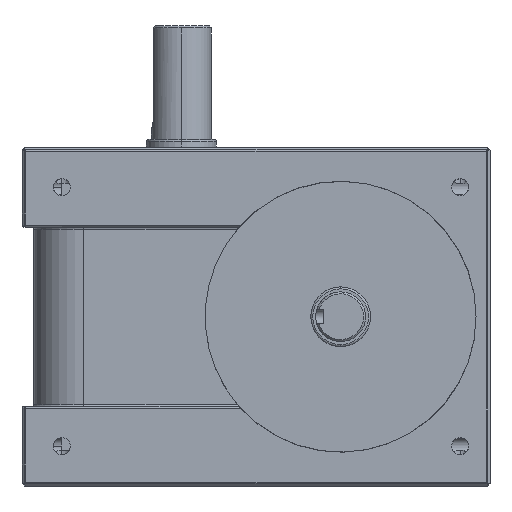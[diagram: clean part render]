
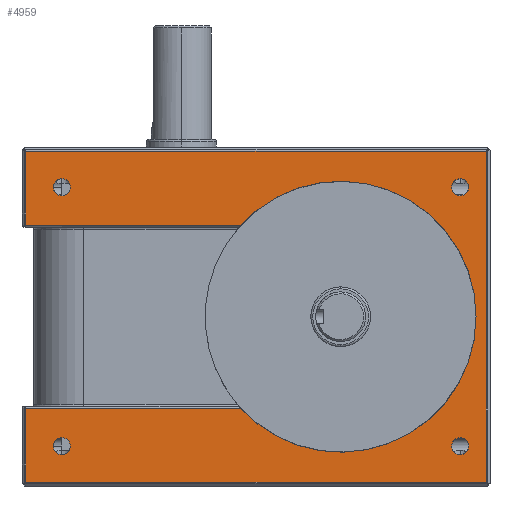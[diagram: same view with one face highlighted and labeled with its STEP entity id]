
A CAD part, left-side view. The second image highlights one B-rep face of the part: STEP entity #4959.
In plain terms, the highlighted planar face has unit normal (-1, 0, 0).
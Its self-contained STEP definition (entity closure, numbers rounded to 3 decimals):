
#852=CARTESIAN_POINT('',(-80.,-102.5,-20.));
#853=DIRECTION('',(-1.,0.,0.));
#854=DIRECTION('',(0.,0.,1.));
#855=AXIS2_PLACEMENT_3D('',#852,#853,#854);
#857=CARTESIAN_POINT('',(-80.,-102.5,-20.));
#858=DIRECTION('',(-1.,0.,0.));
#859=DIRECTION('',(0.,0.,-1.));
#860=AXIS2_PLACEMENT_3D('',#857,#858,#859);
#862=CARTESIAN_POINT('',(-80.,97.5,-20.));
#863=DIRECTION('',(-1.,0.,0.));
#864=DIRECTION('',(0.,0.,1.));
#865=AXIS2_PLACEMENT_3D('',#862,#863,#864);
#867=CARTESIAN_POINT('',(-80.,97.5,-20.));
#868=DIRECTION('',(-1.,0.,0.));
#869=DIRECTION('',(0.,0.,-1.));
#870=AXIS2_PLACEMENT_3D('',#867,#868,#869);
#872=CARTESIAN_POINT('',(-80.,97.5,-150.));
#873=DIRECTION('',(-1.,0.,0.));
#874=DIRECTION('',(0.,0.,1.));
#875=AXIS2_PLACEMENT_3D('',#872,#873,#874);
#877=CARTESIAN_POINT('',(-80.,97.5,-150.));
#878=DIRECTION('',(-1.,0.,0.));
#879=DIRECTION('',(0.,0.,-1.));
#880=AXIS2_PLACEMENT_3D('',#877,#878,#879);
#882=CARTESIAN_POINT('',(-80.,-102.5,-150.));
#883=DIRECTION('',(-1.,0.,0.));
#884=DIRECTION('',(0.,0.,1.));
#885=AXIS2_PLACEMENT_3D('',#882,#883,#884);
#887=CARTESIAN_POINT('',(-80.,-102.5,-150.));
#888=DIRECTION('',(-1.,0.,0.));
#889=DIRECTION('',(0.,0.,-1.));
#890=AXIS2_PLACEMENT_3D('',#887,#888,#889);
#892=DIRECTION('',(0.,0.,1.));
#893=VECTOR('',#892,37.086);
#894=CARTESIAN_POINT('',(-80.,115.586,-39.));
#895=LINE('',#894,#893);
#896=DIRECTION('',(0.,-1.,0.));
#897=VECTOR('',#896,231.172);
#898=CARTESIAN_POINT('',(-80.,115.586,-1.914));
#899=LINE('',#898,#897);
#900=DIRECTION('',(0.,0.,-1.));
#901=VECTOR('',#900,166.172);
#902=CARTESIAN_POINT('',(-80.,-115.586,
-1.914));
#903=LINE('',#902,#901);
#904=DIRECTION('',(0.,1.,0.));
#905=VECTOR('',#904,231.172);
#906=CARTESIAN_POINT('',(-80.,-115.586,
-168.086));
#907=LINE('',#906,#905);
#908=DIRECTION('',(0.,0.,1.));
#909=VECTOR('',#908,37.086);
#910=CARTESIAN_POINT('',(-80.,115.586,-168.086));
#911=LINE('',#910,#909);
#912=DIRECTION('',(0.,1.,0.));
#913=VECTOR('',#912,108.006);
#914=CARTESIAN_POINT('',(-80.,7.58,-131.));
#915=LINE('',#914,#913);
#916=DIRECTION('',(0.,-1.,0.));
#917=VECTOR('',#916,108.006);
#918=CARTESIAN_POINT('',(-80.,115.586,-39.));
#919=LINE('',#918,#917);
#2567=CARTESIAN_POINT('',(-80.,115.586,-39.));
#2569=CARTESIAN_POINT('',(-80.,7.58,-39.));
#2578=CARTESIAN_POINT('',(-80.,-42.5,-85.));
#2579=DIRECTION('',(1.,0.,0.));
#2580=DIRECTION('',(0.,0.736,0.676));
#2581=AXIS2_PLACEMENT_3D('',#2578,#2579,#2580);
#2590=CARTESIAN_POINT('',(-80.,7.58,-131.));
#3512=CARTESIAN_POINT('',(-80.,-102.5,-15.75));
#3513=CARTESIAN_POINT('',(-80.,-102.5,-24.25));
#3514=VERTEX_POINT('',#3512);
#3515=VERTEX_POINT('',#3513);
#3516=CARTESIAN_POINT('',(-80.,97.5,-15.75));
#3517=CARTESIAN_POINT('',(-80.,97.5,-24.25));
#3518=VERTEX_POINT('',#3516);
#3519=VERTEX_POINT('',#3517);
#3520=CARTESIAN_POINT('',(-80.,97.5,-145.75));
#3521=CARTESIAN_POINT('',(-80.,97.5,-154.25));
#3522=VERTEX_POINT('',#3520);
#3523=VERTEX_POINT('',#3521);
#3524=CARTESIAN_POINT('',(-80.,-102.5,-145.75));
#3525=CARTESIAN_POINT('',(-80.,-102.5,-154.25));
#3526=VERTEX_POINT('',#3524);
#3527=VERTEX_POINT('',#3525);
#3809=VERTEX_POINT('',#2569);
#3811=VERTEX_POINT('',#2590);
#4014=VERTEX_POINT('',#2567);
#4017=CARTESIAN_POINT('',(-80.,115.586,
-1.914));
#4018=VERTEX_POINT('',#4017);
#4022=CARTESIAN_POINT('',(-80.,-115.586,
-1.914));
#4023=VERTEX_POINT('',#4022);
#4027=CARTESIAN_POINT('',(-80.,-115.586,
-168.086));
#4028=VERTEX_POINT('',#4027);
#4032=CARTESIAN_POINT('',(-80.,115.586,
-168.086));
#4033=VERTEX_POINT('',#4032);
#4037=CARTESIAN_POINT('',(-80.,115.586,-131.));
#4038=VERTEX_POINT('',#4037);
#4914=CARTESIAN_POINT('',(-80.,117.5,0.));
#4915=DIRECTION('',(-1.,0.,0.));
#4916=DIRECTION('',(0.,-1.,0.));
#4917=AXIS2_PLACEMENT_3D('',#4914,#4915,#4916);
#4918=PLANE('',#4917);
#4920=ORIENTED_EDGE('',*,*,#4919,.T.);
#4922=ORIENTED_EDGE('',*,*,#4921,.T.);
#4924=ORIENTED_EDGE('',*,*,#4923,.T.);
#4926=ORIENTED_EDGE('',*,*,#4925,.T.);
#4928=ORIENTED_EDGE('',*,*,#4927,.T.);
#4930=ORIENTED_EDGE('',*,*,#4929,.F.);
#4932=ORIENTED_EDGE('',*,*,#4931,.F.);
#4934=ORIENTED_EDGE('',*,*,#4933,.F.);
#4935=EDGE_LOOP('',(#4920,#4922,#4924,#4926,#4928,#4930,#4932,#4934));
#4936=FACE_OUTER_BOUND('',#4935,.F.);
#4937=ORIENTED_EDGE('',*,*,#4400,.T.);
#4939=ORIENTED_EDGE('',*,*,#4938,.T.);
#4940=EDGE_LOOP('',(#4937,#4939));
#4941=FACE_BOUND('',#4940,.F.);
#4943=ORIENTED_EDGE('',*,*,#4942,.T.);
#4944=ORIENTED_EDGE('',*,*,#4903,.T.);
#4945=EDGE_LOOP('',(#4943,#4944));
#4946=FACE_BOUND('',#4945,.F.);
#4948=ORIENTED_EDGE('',*,*,#4947,.T.);
#4950=ORIENTED_EDGE('',*,*,#4949,.T.);
#4951=EDGE_LOOP('',(#4948,#4950));
#4952=FACE_BOUND('',#4951,.F.);
#4954=ORIENTED_EDGE('',*,*,#4953,.T.);
#4956=ORIENTED_EDGE('',*,*,#4955,.T.);
#4957=EDGE_LOOP('',(#4954,#4956));
#4958=FACE_BOUND('',#4957,.F.);
#856=CIRCLE('',#855,4.25);
#861=CIRCLE('',#860,4.25);
#866=CIRCLE('',#865,4.25);
#871=CIRCLE('',#870,4.25);
#876=CIRCLE('',#875,4.25);
#881=CIRCLE('',#880,4.25);
#886=CIRCLE('',#885,4.25);
#891=CIRCLE('',#890,4.25);
#2582=CIRCLE('',#2581,68.);
#4400=EDGE_CURVE('',#3518,#3519,#866,.T.);
#4903=EDGE_CURVE('',#3523,#3522,#881,.T.);
#4919=EDGE_CURVE('',#4014,#4018,#895,.T.);
#4921=EDGE_CURVE('',#4018,#4023,#899,.T.);
#4923=EDGE_CURVE('',#4023,#4028,#903,.T.);
#4925=EDGE_CURVE('',#4028,#4033,#907,.T.);
#4927=EDGE_CURVE('',#4033,#4038,#911,.T.);
#4929=EDGE_CURVE('',#3811,#4038,#915,.T.);
#4931=EDGE_CURVE('',#3809,#3811,#2582,.T.);
#4933=EDGE_CURVE('',#4014,#3809,#919,.T.);
#4938=EDGE_CURVE('',#3519,#3518,#871,.T.);
#4942=EDGE_CURVE('',#3522,#3523,#876,.T.);
#4947=EDGE_CURVE('',#3526,#3527,#886,.T.);
#4949=EDGE_CURVE('',#3527,#3526,#891,.T.);
#4953=EDGE_CURVE('',#3514,#3515,#856,.T.);
#4955=EDGE_CURVE('',#3515,#3514,#861,.T.);
#4959=ADVANCED_FACE('',(#4936,#4941,#4946,#4952,#4958),#4918,.T.);
